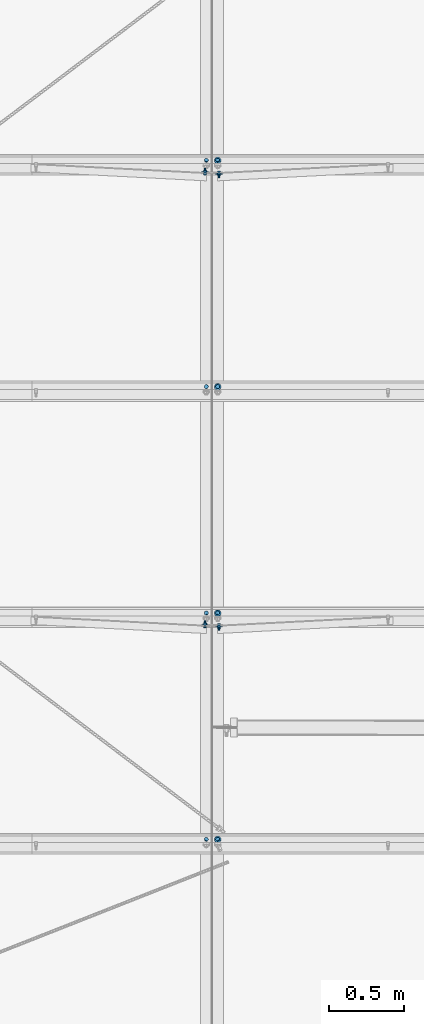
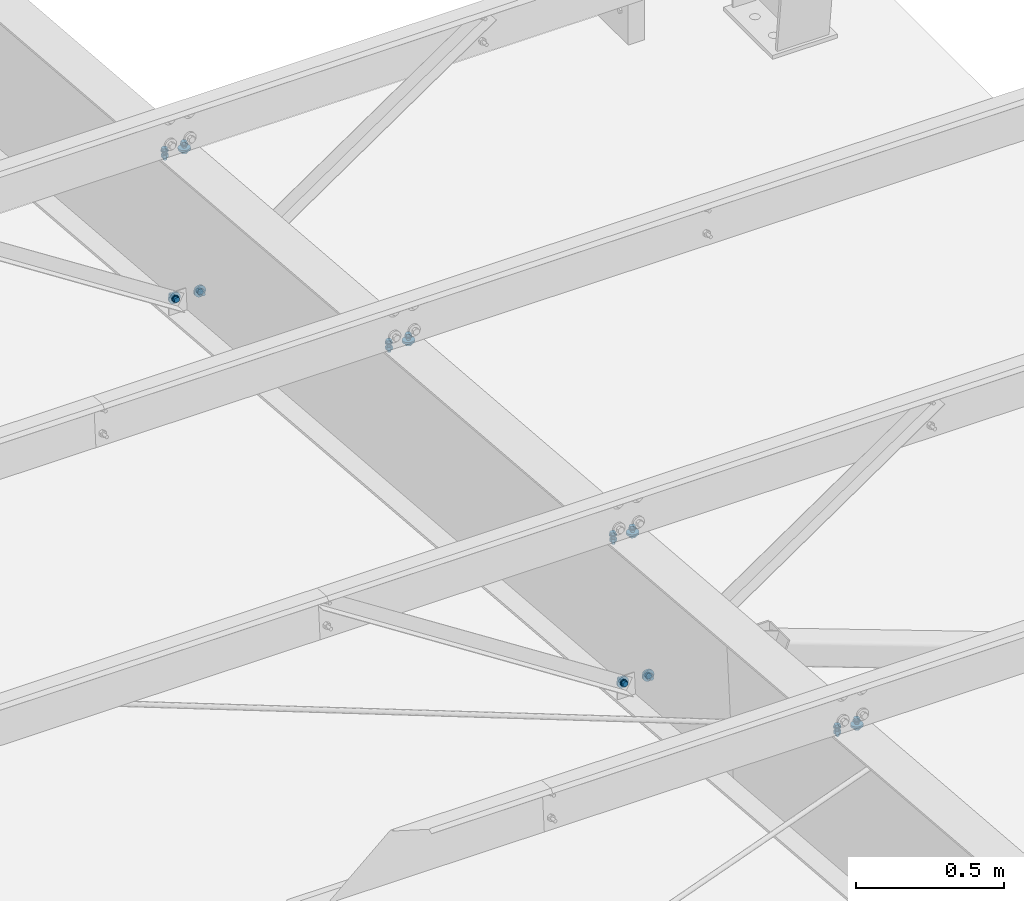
# One storey, part 174 of 185: 16 mechanical fasteners, 9 elements without a shape of their own.
"""IFC2X3 building model written with IfcOpenShell, lengths in millimetres."""

from ifc_helpers import new_model, si_unit, frame, origin_with_axes, origin_2d_with_axis, place, context, subcontext, project, spatial, polyline, circle, outline, extrude, source, transform, mapped, material, type_object, element, aggregate, save


model = new_model("IFC2X3")

# Units and contexts
model_context = context("Model", 3, precision=1e-05, world=origin_with_axes())
body_context = subcontext(model_context, "Body", "Model", "MODEL_VIEW")
ifc_project = project(units=[si_unit("LENGTHUNIT", "METRE", prefix="MILLI"), si_unit("AREAUNIT", "SQUARE_METRE"), si_unit("VOLUMEUNIT", "CUBIC_METRE"), si_unit("MASSUNIT", "GRAM", prefix="KILO"), si_unit("TIMEUNIT", "SECOND"), si_unit("PLANEANGLEUNIT", "RADIAN"), si_unit("SOLIDANGLEUNIT", "STERADIAN"), si_unit("THERMODYNAMICTEMPERATUREUNIT", "DEGREE_CELSIUS"), si_unit("LUMINOUSINTENSITYUNIT", "LUMEN")], contexts=[model_context])

# Site, building, storey
site_placement = place(None, origin_with_axes())
site = spatial("IfcSite", under=ifc_project, at=site_placement, Name="Undefined", CompositionType="ELEMENT")
building_placement = place(site_placement, origin_with_axes())
building = spatial("IfcBuilding", under=site, at=building_placement, Name="Undefined", CompositionType="ELEMENT")
storey_placement = place(building_placement, origin_with_axes())
storey = spatial("IfcBuildingStorey", under=building, at=storey_placement, Name="Undefined", CompositionType="ELEMENT", Elevation=0.0)

# Assembly, mechanical fastener
assembly_1_placement = place(storey_placement, origin_with_axes())
assembly_1 = element("IfcElementAssembly", 1, at=assembly_1_placement, inside=storey, Name="Steel Assembly", AssemblyPlace="NOTDEFINED", PredefinedType="RIGID_FRAME")
ifc_material_1 = material(Name="Undefined")
discrete_accessory_type = type_object("IfcDiscreteAccessoryType", Name="Bolt assembly")
shared_shape_1 = source(origin_with_axes(), body_context, "Body", "SweptSolid", [
    extrude(circle(Radius=7.14374971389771, at=origin_2d_with_axis()), frame((0.0, -1.59000001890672, 0.0), z_axis=(0.0, 1.0, 0.0), x_axis=(1.0, 0.0, 0.0)), (0.0, 0.0, 1.0), 1.7),
    extrude(outline(polyline([(10.9985221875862, 0.0), (5.4992610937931, 9.52499961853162), (-5.4992610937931, 9.52499961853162), (-10.9985221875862, 0.0), (-5.4992610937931, -9.52499961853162), (5.4992610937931, -9.52499961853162), (10.9985221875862, 0.0)])), frame((0.0, -15.0837496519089, 0.0), z_axis=(0.0, 1.0, 0.0), x_axis=(1.0, 0.0, 0.0)), (0.0, 0.0, 1.0), 9.5),
    extrude(circle(Radius=6.34999990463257, at=origin_2d_with_axis()), frame((0.0, -5.5587500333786, 0.0), z_axis=(0.0, 1.0, 0.0), x_axis=(1.0, 0.0, 0.0)), (0.0, 0.0, 1.0), 38.1),
    extrude(circle(Radius=13.4937496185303, at=origin_2d_with_axis()), frame((0.0, -5.5587500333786, 0.0), z_axis=(0.0, 1.0, 0.0), x_axis=(1.0, 0.0, 0.0)), (0.0, 0.0, 1.0), 4.0),
    extrude(circle(Radius=22.2250003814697, at=origin_2d_with_axis()), frame((0.0, 0.0, 0.0), z_axis=(0.0, 1.0, 0.0), x_axis=(1.0, 0.0, 0.0)), (0.0, 0.0, 1.0), 7.9),
    extrude(outline(polyline([(12.8316099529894, 0.0), (6.4158049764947, 11.1125001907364), (-6.4158049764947, 11.1125001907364), (-12.8316099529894, 0.0), (-6.4158049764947, -11.1125001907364), (6.4158049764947, -11.1125001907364), (12.8316099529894, 0.0)])), frame((0.0, 7.93750000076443, 0.0), z_axis=(0.0, 1.0, 0.0), x_axis=(1.0, 0.0, 0.0)), (0.0, 0.0, 1.0), 12.3),
])
mechanical_fastener_1_placement = place(assembly_1_placement, frame((37671.9939479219, 23836.3195518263, 6014.11103485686), z_axis=(-0.530152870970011, -0.0704144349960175, -0.844973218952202), x_axis=(-0.847902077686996, 0.0440267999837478, 0.52832159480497)))
mechanical_fastener_1 = element("IfcMechanicalFastener", 2, at=mechanical_fastener_1_placement, type_object=discrete_accessory_type, material=ifc_material_1, Name="Bolt assembly", NominalDiameter=12.6999998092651, NominalLength=38.0999984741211, context=body_context, shape_type="MappedRepresentation", body=[
    mapped(shared_shape_1, transform((0.0, 0.0, 0.0))),
])
aggregate(assembly_1, [mechanical_fastener_1])

assembly_2_placement = place(storey_placement, origin_with_axes())
assembly_2 = element("IfcElementAssembly", 3, at=assembly_2_placement, inside=storey, Name="Steel Assembly", AssemblyPlace="NOTDEFINED", PredefinedType="RIGID_FRAME")
mechanical_fastener_2_placement = place(assembly_2_placement, frame((37671.993947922, 20798.8480807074, 6267.23365747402), z_axis=(-0.530152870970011, -0.0704144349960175, -0.844973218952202), x_axis=(-0.847902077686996, 0.0440267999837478, 0.52832159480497)))
mechanical_fastener_2 = element("IfcMechanicalFastener", 4, at=mechanical_fastener_2_placement, type_object=discrete_accessory_type, material=ifc_material_1, Name="Bolt assembly", NominalDiameter=12.6999998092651, NominalLength=38.0999984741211, context=body_context, shape_type="MappedRepresentation", body=[
    mapped(shared_shape_1, transform((0.0, 0.0, 0.0))),
])
aggregate(assembly_2, [mechanical_fastener_2])

assembly_3_placement = place(storey_placement, origin_with_axes())
assembly_3 = element("IfcElementAssembly", 5, at=assembly_3_placement, inside=storey, Name="Steel Assembly", AssemblyPlace="NOTDEFINED", PredefinedType="RIGID_FRAME")
shared_shape_2 = source(origin_with_axes(), body_context, "Body", "SweptSolid", [
    extrude(circle(Radius=7.14374971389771, at=origin_2d_with_axis()), frame((0.0, 0.0, 0.0), z_axis=(0.0, 1.0, 0.0), x_axis=(1.0, 0.0, 0.0)), (0.0, 0.0, 1.0), 1.7),
    extrude(outline(polyline([(10.9985221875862, 0.0), (5.4992610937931, 9.52499961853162), (-5.4992610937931, 9.52499961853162), (-10.9985221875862, 0.0), (-5.4992610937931, -9.52499961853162), (5.4992610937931, -9.52499961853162), (10.9985221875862, 0.0)])), frame((0.0, -13.4937496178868, 0.0), z_axis=(0.0, 1.0, 0.0), x_axis=(1.0, 0.0, 0.0)), (0.0, 0.0, 1.0), 9.5),
    extrude(circle(Radius=6.34999990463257, at=origin_2d_with_axis()), frame((0.0, -3.96874999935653, 0.0), z_axis=(0.0, 1.0, 0.0), x_axis=(1.0, 0.0, 0.0)), (0.0, 0.0, 1.0), 38.1),
    extrude(circle(Radius=13.4937496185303, at=origin_2d_with_axis()), frame((0.0, -3.96874999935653, 0.0), z_axis=(0.0, 1.0, 0.0), x_axis=(1.0, 0.0, 0.0)), (0.0, 0.0, 1.0), 4.0),
    extrude(circle(Radius=22.2250003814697, at=origin_2d_with_axis()), frame((0.0, 1.5900000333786, 0.0), z_axis=(0.0, 1.0, 0.0), x_axis=(1.0, 0.0, 0.0)), (0.0, 0.0, 1.0), 7.9),
    extrude(outline(polyline([(12.8316099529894, 0.0), (6.4158049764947, 11.1125001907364), (-6.4158049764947, 11.1125001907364), (-12.8316099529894, 0.0), (-6.4158049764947, -11.1125001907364), (6.4158049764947, -11.1125001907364), (12.8316099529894, 0.0)])), frame((0.0, 9.5275000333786, 0.0), z_axis=(0.0, 1.0, 0.0), x_axis=(1.0, 0.0, 0.0)), (0.0, 0.0, 1.0), 12.3),
])
mechanical_fastener_3_placement = place(assembly_3_placement, frame((37766.0060520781, 23836.3195518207, 6014.11103485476), z_axis=(0.530152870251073, -0.0704144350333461, -0.844973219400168), x_axis=(0.847902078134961, 0.0440268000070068, 0.528321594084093)))
mechanical_fastener_3 = element("IfcMechanicalFastener", 6, at=mechanical_fastener_3_placement, type_object=discrete_accessory_type, material=ifc_material_1, Name="Bolt assembly", NominalDiameter=12.6999998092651, NominalLength=38.0999984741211, context=body_context, shape_type="MappedRepresentation", body=[
    mapped(shared_shape_2, transform((0.0, 0.0, 0.0))),
])
aggregate(assembly_3, [mechanical_fastener_3])

assembly_4_placement = place(storey_placement, origin_with_axes())
assembly_4 = element("IfcElementAssembly", 7, at=assembly_4_placement, inside=storey, Name="Steel Assembly", AssemblyPlace="NOTDEFINED", PredefinedType="RIGID_FRAME")
mechanical_fastener_4_placement = place(assembly_4_placement, frame((37766.006052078, 20798.8480806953, 6267.23365746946), z_axis=(0.530152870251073, -0.0704144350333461, -0.844973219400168), x_axis=(0.847902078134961, 0.0440268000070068, 0.528321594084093)))
mechanical_fastener_4 = element("IfcMechanicalFastener", 8, at=mechanical_fastener_4_placement, type_object=discrete_accessory_type, material=ifc_material_1, Name="Bolt assembly", NominalDiameter=12.6999998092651, NominalLength=38.0999984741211, context=body_context, shape_type="MappedRepresentation", body=[
    mapped(shared_shape_2, transform((0.0, 0.0, 0.0))),
])
aggregate(assembly_4, [mechanical_fastener_4])

# Assembly, mechanical fasteners
assembly_5_placement = place(storey_placement, origin_with_axes())
assembly_5 = element("IfcElementAssembly", 9, at=assembly_5_placement, inside=storey, Name="Steel Assembly", AssemblyPlace="NOTDEFINED", PredefinedType="RIGID_FRAME")
ifc_material_2 = material(Name="7990")
shared_shape_3 = source(origin_with_axes(), body_context, "Body", "SweptSolid", [
    extrude(circle(Radius=7.14374971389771, at=origin_2d_with_axis()), frame((0.0, -3.41600000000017, 0.0), z_axis=(0.0, 1.0, 0.0), x_axis=(1.0, 0.0, 0.0)), (0.0, 0.0, 1.0), 3.5),
    extrude(circle(Radius=11.4299998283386, at=origin_2d_with_axis()), frame((0.0, 0.0, 0.0), z_axis=(0.0, 1.0, 0.0), x_axis=(1.0, 0.0, 0.0)), (0.0, 0.0, 1.0), 4.2),
    extrude(outline(polyline([(12.171698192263, 0.0), (6.08584909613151, 10.5409998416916), (-6.08584909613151, 10.5409998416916), (-12.171698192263, 0.0), (-6.08584909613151, -10.5409998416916), (6.08584909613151, -10.5409998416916), (12.171698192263, 0.0)])), frame((0.0, 4.1909999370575, 0.0), z_axis=(0.0, 1.0, 0.0), x_axis=(1.0, 0.0, 0.0)), (0.0, 0.0, 1.0), 8.4),
])
mechanical_fastener_5_placement = place(assembly_5_placement, frame((37765.15815, 23836.2755250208, 6013.58271325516), z_axis=(-0.921635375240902, -0.0322263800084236, -0.386716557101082), x_axis=(0.388056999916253, -0.0765376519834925, -0.918451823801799)))
mechanical_fastener_5 = element("IfcMechanicalFastener", 10, at=mechanical_fastener_5_placement, type_object=discrete_accessory_type, material=ifc_material_2, Name="Bolt assembly", NominalDiameter=12.6999998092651, NominalLength=38.0999984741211, context=body_context, shape_type="MappedRepresentation", body=[
    mapped(shared_shape_3, transform((0.0, 0.0, 0.0))),
])
mechanical_fastener_6_placement = place(assembly_5_placement, frame((37765.15815, 20798.8040538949, 6266.70533586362), z_axis=(-0.921635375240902, -0.0322263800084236, -0.386716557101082), x_axis=(0.388056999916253, -0.0765376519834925, -0.918451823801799)))
mechanical_fastener_6 = element("IfcMechanicalFastener", 11, at=mechanical_fastener_6_placement, type_object=discrete_accessory_type, material=ifc_material_2, Name="Bolt assembly", NominalDiameter=12.6999998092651, NominalLength=38.0999984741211, context=body_context, shape_type="MappedRepresentation", body=[
    mapped(shared_shape_3, transform((0.0, 0.0, 0.0))),
])
shared_shape_4 = source(origin_with_axes(), body_context, "Body", "SweptSolid", [
    extrude(circle(Radius=7.14374971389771, at=origin_2d_with_axis()), frame((0.0, 0.0, 0.0), z_axis=(0.0, 1.0, 0.0), x_axis=(1.0, 0.0, 0.0)), (0.0, 0.0, 1.0), 3.5),
    extrude(circle(Radius=11.4299998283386, at=origin_2d_with_axis()), frame((0.0, 3.41600000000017, 0.0), z_axis=(0.0, 1.0, 0.0), x_axis=(1.0, 0.0, 0.0)), (0.0, 0.0, 1.0), 4.2),
    extrude(outline(polyline([(12.171698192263, 0.0), (6.08584909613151, 10.5409998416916), (-6.08584909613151, 10.5409998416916), (-12.171698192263, 0.0), (-6.08584909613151, -10.5409998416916), (6.08584909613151, -10.5409998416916), (12.171698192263, 0.0)])), frame((0.0, 7.60699993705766, 0.0), z_axis=(0.0, 1.0, 0.0), x_axis=(1.0, 0.0, 0.0)), (0.0, 0.0, 1.0), 8.4),
])
mechanical_fastener_7_placement = place(assembly_5_placement, frame((37672.84185, 23836.2755250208, 6013.58271325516), z_axis=(0.921635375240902, -0.0322263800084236, -0.386716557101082), x_axis=(-0.388056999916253, -0.0765376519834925, -0.918451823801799)))
mechanical_fastener_7 = element("IfcMechanicalFastener", 12, at=mechanical_fastener_7_placement, type_object=discrete_accessory_type, material=ifc_material_2, Name="Bolt assembly", NominalDiameter=12.6999998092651, NominalLength=38.0999984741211, context=body_context, shape_type="MappedRepresentation", body=[
    mapped(shared_shape_4, transform((0.0, 0.0, 0.0))),
])
mechanical_fastener_8_placement = place(assembly_5_placement, frame((37672.84185, 20798.8040538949, 6266.70533586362), z_axis=(0.921635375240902, -0.0322263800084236, -0.386716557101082), x_axis=(-0.388056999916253, -0.0765376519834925, -0.918451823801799)))
mechanical_fastener_8 = element("IfcMechanicalFastener", 13, at=mechanical_fastener_8_placement, type_object=discrete_accessory_type, material=ifc_material_2, Name="Bolt assembly", NominalDiameter=12.6999998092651, NominalLength=38.0999984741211, context=body_context, shape_type="MappedRepresentation", body=[
    mapped(shared_shape_4, transform((0.0, 0.0, 0.0))),
])
aggregate(assembly_5, [mechanical_fastener_7, mechanical_fastener_5, mechanical_fastener_8, mechanical_fastener_6])

assembly_6_placement = place(storey_placement, origin_with_axes())
assembly_6 = element("IfcElementAssembly", 14, at=assembly_6_placement, inside=storey, Name="Steel Assembly", AssemblyPlace="NOTDEFINED", PredefinedType="RIGID_FRAME")
shared_shape_5 = source(origin_with_axes(), body_context, "Body", "SweptSolid", [
    extrude(circle(Radius=7.14374971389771, at=origin_2d_with_axis()), frame((0.0, -0.0238014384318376, 0.0), z_axis=(0.0, 1.0, 0.0), x_axis=(1.0, 0.0, 0.0)), (0.0, 0.0, 1.0), 8.0),
    extrude(circle(Radius=7.14374971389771, at=origin_2d_with_axis()), frame((0.0, -3.18000030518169, 0.0), z_axis=(0.0, 1.0, 0.0), x_axis=(1.0, 0.0, 0.0)), (0.0, 0.0, 1.0), 3.2),
    extrude(circle(Radius=7.14374971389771, at=origin_2d_with_axis()), frame((0.0, -3.08000006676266, 0.0), z_axis=(0.0, 1.0, 0.0), x_axis=(1.0, 0.0, 0.0)), (0.0, 0.0, 1.0), 3.2),
    extrude(outline(polyline([(10.9985221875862, 0.0), (5.4992610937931, 9.52499961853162), (-5.4992610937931, 9.52499961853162), (-10.9985221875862, 0.0), (-5.4992610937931, -9.52499961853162), (5.4992610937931, -9.52499961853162), (10.9985221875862, 0.0)])), frame((0.0, -16.6737496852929, 0.0), z_axis=(0.0, 1.0, 0.0), x_axis=(1.0, 0.0, 0.0)), (0.0, 0.0, 1.0), 9.5),
    extrude(circle(Radius=6.34999990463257, at=origin_2d_with_axis()), frame((0.0, -7.14875006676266, 0.0), z_axis=(0.0, 1.0, 0.0), x_axis=(1.0, 0.0, 0.0)), (0.0, 0.0, 1.0), 38.1),
    extrude(circle(Radius=13.4937496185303, at=origin_2d_with_axis()), frame((0.0, -7.14875006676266, 0.0), z_axis=(0.0, 1.0, 0.0), x_axis=(1.0, 0.0, 0.0)), (0.0, 0.0, 1.0), 4.0),
    extrude(circle(Radius=22.2250003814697, at=origin_2d_with_axis()), frame((0.0, 7.95019856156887, 0.0), z_axis=(0.0, 1.0, 0.0), x_axis=(1.0, 0.0, 0.0)), (0.0, 0.0, 1.0), 7.9),
    extrude(outline(polyline([(12.8316099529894, 0.0), (6.4158049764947, 11.1125001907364), (-6.4158049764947, 11.1125001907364), (-12.8316099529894, 0.0), (-6.4158049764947, -11.1125001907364), (6.4158049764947, -11.1125001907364), (12.8316099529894, 0.0)])), frame((0.0, 15.8876985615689, 0.0), z_axis=(0.0, 1.0, 0.0), x_axis=(1.0, 0.0, 0.0)), (0.0, 0.0, 1.0), 12.3),
])
mechanical_fastener_9_placement = place(assembly_6_placement, frame((37757.1, 23920.5189522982, 6565.71908714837), z_axis=(-1.0, 0.0, 0.0), x_axis=(0.0, 0.996545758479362, -0.0830454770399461)))
mechanical_fastener_9 = element("IfcMechanicalFastener", 15, at=mechanical_fastener_9_placement, type_object=discrete_accessory_type, material=ifc_material_1, Name="Bolt assembly", NominalDiameter=12.6999998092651, NominalLength=38.0999984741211, context=body_context, shape_type="MappedRepresentation", body=[
    mapped(shared_shape_5, transform((0.0, 0.0, 0.0))),
])
shared_shape_6 = source(origin_with_axes(), body_context, "Body", "SweptSolid", [
    extrude(circle(Radius=7.14374971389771, at=origin_2d_with_axis()), frame((0.0, -0.0238014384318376, 0.0), z_axis=(0.0, 1.0, 0.0), x_axis=(1.0, 0.0, 0.0)), (0.0, 0.0, 1.0), 8.0),
    extrude(circle(Radius=7.14374971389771, at=origin_2d_with_axis()), frame((0.0, -3.18000030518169, 0.0), z_axis=(0.0, 1.0, 0.0), x_axis=(1.0, 0.0, 0.0)), (0.0, 0.0, 1.0), 3.2),
    extrude(circle(Radius=7.14374971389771, at=origin_2d_with_axis()), frame((0.0, -3.08000006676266, 0.0), z_axis=(0.0, 1.0, 0.0), x_axis=(1.0, 0.0, 0.0)), (0.0, 0.0, 1.0), 3.2),
    extrude(outline(polyline([(10.9985221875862, 0.0), (5.4992610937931, 9.52499961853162), (-5.4992610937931, 9.52499961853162), (-10.9985221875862, 0.0), (-5.4992610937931, -9.52499961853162), (5.4992610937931, -9.52499961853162), (10.9985221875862, 0.0)])), frame((0.0, -16.6737496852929, 0.0), z_axis=(0.0, 1.0, 0.0), x_axis=(1.0, 0.0, 0.0)), (0.0, 0.0, 1.0), 9.5),
    extrude(circle(Radius=6.34999990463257, at=origin_2d_with_axis()), frame((0.0, -7.14875006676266, 0.0), z_axis=(0.0, 1.0, 0.0), x_axis=(1.0, 0.0, 0.0)), (0.0, 0.0, 1.0), 38.1),
    extrude(circle(Radius=13.4937496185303, at=origin_2d_with_axis()), frame((0.0, -7.14875006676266, 0.0), z_axis=(0.0, 1.0, 0.0), x_axis=(1.0, 0.0, 0.0)), (0.0, 0.0, 1.0), 4.0),
    extrude(outline(polyline([(12.8316099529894, 0.0), (6.4158049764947, 11.1125001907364), (-6.4158049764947, 11.1125001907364), (-12.8316099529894, 0.0), (-6.4158049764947, -11.1125001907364), (6.4158049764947, -11.1125001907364), (12.8316099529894, 0.0)])), frame((0.0, 7.95019856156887, 0.0), z_axis=(0.0, 1.0, 0.0), x_axis=(1.0, 0.0, 0.0)), (0.0, 0.0, 1.0), 12.3),
])
mechanical_fastener_10_placement = place(assembly_6_placement, frame((37680.9, 23920.5189522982, 6565.71908714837), z_axis=(-1.0, 0.0, 0.0), x_axis=(0.0, 0.996545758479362, -0.0830454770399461)))
mechanical_fastener_10 = element("IfcMechanicalFastener", 16, at=mechanical_fastener_10_placement, type_object=discrete_accessory_type, material=ifc_material_1, Name="Bolt assembly", NominalDiameter=12.6999998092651, NominalLength=38.0999984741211, context=body_context, shape_type="MappedRepresentation", body=[
    mapped(shared_shape_6, transform((0.0, 0.0, 0.0))),
])
aggregate(assembly_6, [mechanical_fastener_9, mechanical_fastener_10])

# Assembly, mechanical fastener
assembly_7_placement = place(storey_placement, origin_with_axes())
assembly_7 = element("IfcElementAssembly", 17, at=assembly_7_placement, inside=storey, Name="Steel Assembly", AssemblyPlace="NOTDEFINED", PredefinedType="RIGID_FRAME")
shared_shape_7 = source(origin_with_axes(), body_context, "Body", "SweptSolid", [
    extrude(circle(Radius=7.14374971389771, at=origin_2d_with_axis()), frame((0.0, -0.0238014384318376, 0.0), z_axis=(0.0, 1.0, 0.0), x_axis=(1.0, 0.0, 0.0)), (0.0, 0.0, 1.0), 8.0),
    extrude(circle(Radius=7.14374971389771, at=origin_2d_with_axis()), frame((0.0, -3.08000006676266, 0.0), z_axis=(0.0, 1.0, 0.0), x_axis=(1.0, 0.0, 0.0)), (0.0, 0.0, 1.0), 3.2),
    extrude(circle(Radius=7.14374971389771, at=origin_2d_with_axis()), frame((0.0, -3.08000006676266, 0.0), z_axis=(0.0, 1.0, 0.0), x_axis=(1.0, 0.0, 0.0)), (0.0, 0.0, 1.0), 3.2),
    extrude(outline(polyline([(10.9985221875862, 0.0), (5.4992610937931, 9.52499961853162), (-5.4992610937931, 9.52499961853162), (-10.9985221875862, 0.0), (-5.4992610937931, -9.52499961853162), (5.4992610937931, -9.52499961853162), (10.9985221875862, 0.0)])), frame((0.0, -16.6737496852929, 0.0), z_axis=(0.0, 1.0, 0.0), x_axis=(1.0, 0.0, 0.0)), (0.0, 0.0, 1.0), 9.5),
    extrude(circle(Radius=6.34999990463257, at=origin_2d_with_axis()), frame((0.0, -7.14875006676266, 0.0), z_axis=(0.0, 1.0, 0.0), x_axis=(1.0, 0.0, 0.0)), (0.0, 0.0, 1.0), 38.1),
    extrude(circle(Radius=13.4937496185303, at=origin_2d_with_axis()), frame((0.0, -7.14875006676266, 0.0), z_axis=(0.0, 1.0, 0.0), x_axis=(1.0, 0.0, 0.0)), (0.0, 0.0, 1.0), 4.0),
    extrude(circle(Radius=22.2250003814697, at=origin_2d_with_axis()), frame((0.0, 7.95019856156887, 0.0), z_axis=(0.0, 1.0, 0.0), x_axis=(1.0, 0.0, 0.0)), (0.0, 0.0, 1.0), 7.9),
    extrude(outline(polyline([(12.8316099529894, 0.0), (6.4158049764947, 11.1125001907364), (-6.4158049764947, 11.1125001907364), (-12.8316099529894, 0.0), (-6.4158049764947, -11.1125001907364), (6.4158049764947, -11.1125001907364), (12.8316099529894, 0.0)])), frame((0.0, 15.8876985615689, 0.0), z_axis=(0.0, 1.0, 0.0), x_axis=(1.0, 0.0, 0.0)), (0.0, 0.0, 1.0), 12.3),
])
mechanical_fastener_11_placement = place(assembly_7_placement, frame((37757.1, 19364.3117456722, 6945.40302181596), z_axis=(-1.0, 0.0, 0.0), x_axis=(0.0, 0.996545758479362, -0.0830454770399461)))
mechanical_fastener_11 = element("IfcMechanicalFastener", 18, at=mechanical_fastener_11_placement, type_object=discrete_accessory_type, material=ifc_material_1, Name="Bolt assembly", NominalDiameter=12.6999998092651, NominalLength=38.0999984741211, context=body_context, shape_type="MappedRepresentation", body=[
    mapped(shared_shape_7, transform((0.0, 0.0, 0.0))),
])

assembly_8_placement = place(storey_placement, origin_with_axes())
assembly_8 = element("IfcElementAssembly", 19, at=assembly_8_placement, inside=storey, Name="Steel Assembly", AssemblyPlace="NOTDEFINED", PredefinedType="RIGID_FRAME")
mechanical_fastener_12_placement = place(assembly_8_placement, frame((37757.1, 20883.0474812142, 6818.84171026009), z_axis=(-1.0, 0.0, 0.0), x_axis=(0.0, 0.996545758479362, -0.0830454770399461)))
mechanical_fastener_12 = element("IfcMechanicalFastener", 20, at=mechanical_fastener_12_placement, type_object=discrete_accessory_type, material=ifc_material_1, Name="Bolt assembly", NominalDiameter=12.6999998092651, NominalLength=38.0999984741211, context=body_context, shape_type="MappedRepresentation", body=[
    mapped(shared_shape_7, transform((0.0, 0.0, 0.0))),
])

assembly_9_placement = place(storey_placement, origin_with_axes())
assembly_9 = element("IfcElementAssembly", 21, at=assembly_9_placement, inside=storey, Name="Steel Assembly", AssemblyPlace="NOTDEFINED", PredefinedType="RIGID_FRAME")
mechanical_fastener_13_placement = place(assembly_9_placement, frame((37757.1, 22401.7832167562, 6692.28039870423), z_axis=(-1.0, 0.0, 0.0), x_axis=(0.0, 0.996545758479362, -0.0830454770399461)))
mechanical_fastener_13 = element("IfcMechanicalFastener", 22, at=mechanical_fastener_13_placement, type_object=discrete_accessory_type, material=ifc_material_1, Name="Bolt assembly", NominalDiameter=12.6999998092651, NominalLength=38.0999984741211, context=body_context, shape_type="MappedRepresentation", body=[
    mapped(shared_shape_7, transform((0.0, 0.0, 0.0))),
])

# Mechanical fastener
shared_shape_8 = source(origin_with_axes(), body_context, "Body", "SweptSolid", [
    extrude(circle(Radius=7.14374971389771, at=origin_2d_with_axis()), frame((0.0, -0.0238014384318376, 0.0), z_axis=(0.0, 1.0, 0.0), x_axis=(1.0, 0.0, 0.0)), (0.0, 0.0, 1.0), 8.0),
    extrude(circle(Radius=7.14374971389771, at=origin_2d_with_axis()), frame((0.0, -3.08000006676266, 0.0), z_axis=(0.0, 1.0, 0.0), x_axis=(1.0, 0.0, 0.0)), (0.0, 0.0, 1.0), 3.2),
    extrude(circle(Radius=7.14374971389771, at=origin_2d_with_axis()), frame((0.0, -3.08000006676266, 0.0), z_axis=(0.0, 1.0, 0.0), x_axis=(1.0, 0.0, 0.0)), (0.0, 0.0, 1.0), 3.2),
    extrude(outline(polyline([(10.9985221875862, 0.0), (5.4992610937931, 9.52499961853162), (-5.4992610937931, 9.52499961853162), (-10.9985221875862, 0.0), (-5.4992610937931, -9.52499961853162), (5.4992610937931, -9.52499961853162), (10.9985221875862, 0.0)])), frame((0.0, -16.6737496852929, 0.0), z_axis=(0.0, 1.0, 0.0), x_axis=(1.0, 0.0, 0.0)), (0.0, 0.0, 1.0), 9.5),
    extrude(circle(Radius=6.34999990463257, at=origin_2d_with_axis()), frame((0.0, -7.14875006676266, 0.0), z_axis=(0.0, 1.0, 0.0), x_axis=(1.0, 0.0, 0.0)), (0.0, 0.0, 1.0), 38.1),
    extrude(circle(Radius=13.4937496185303, at=origin_2d_with_axis()), frame((0.0, -7.14875006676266, 0.0), z_axis=(0.0, 1.0, 0.0), x_axis=(1.0, 0.0, 0.0)), (0.0, 0.0, 1.0), 4.0),
    extrude(outline(polyline([(12.8316099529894, 0.0), (6.4158049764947, 11.1125001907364), (-6.4158049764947, 11.1125001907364), (-12.8316099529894, 0.0), (-6.4158049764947, -11.1125001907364), (6.4158049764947, -11.1125001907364), (12.8316099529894, 0.0)])), frame((0.0, 7.95019856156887, 0.0), z_axis=(0.0, 1.0, 0.0), x_axis=(1.0, 0.0, 0.0)), (0.0, 0.0, 1.0), 12.3),
])
mechanical_fastener_14_placement = place(assembly_7_placement, frame((37680.9, 19364.3117456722, 6945.40302181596), z_axis=(-1.0, 0.0, 0.0), x_axis=(0.0, 0.996545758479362, -0.0830454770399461)))
mechanical_fastener_14 = element("IfcMechanicalFastener", 23, at=mechanical_fastener_14_placement, type_object=discrete_accessory_type, material=ifc_material_1, Name="Bolt assembly", NominalDiameter=12.6999998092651, NominalLength=38.0999984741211, context=body_context, shape_type="MappedRepresentation", body=[
    mapped(shared_shape_8, transform((0.0, 0.0, 0.0))),
])

aggregate(assembly_7, [mechanical_fastener_11, mechanical_fastener_14])

mechanical_fastener_15_placement = place(assembly_8_placement, frame((37680.9, 20883.0474812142, 6818.84171026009), z_axis=(-1.0, 0.0, 0.0), x_axis=(0.0, 0.996545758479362, -0.0830454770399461)))
mechanical_fastener_15 = element("IfcMechanicalFastener", 24, at=mechanical_fastener_15_placement, type_object=discrete_accessory_type, material=ifc_material_1, Name="Bolt assembly", NominalDiameter=12.6999998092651, NominalLength=38.0999984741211, context=body_context, shape_type="MappedRepresentation", body=[
    mapped(shared_shape_8, transform((0.0, 0.0, 0.0))),
])

aggregate(assembly_8, [mechanical_fastener_12, mechanical_fastener_15])

mechanical_fastener_16_placement = place(assembly_9_placement, frame((37680.9, 22401.7832167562, 6692.28039870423), z_axis=(-1.0, 0.0, 0.0), x_axis=(0.0, 0.996545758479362, -0.0830454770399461)))
mechanical_fastener_16 = element("IfcMechanicalFastener", 25, at=mechanical_fastener_16_placement, type_object=discrete_accessory_type, material=ifc_material_1, Name="Bolt assembly", NominalDiameter=12.6999998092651, NominalLength=38.0999984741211, context=body_context, shape_type="MappedRepresentation", body=[
    mapped(shared_shape_8, transform((0.0, 0.0, 0.0))),
])

aggregate(assembly_9, [mechanical_fastener_13, mechanical_fastener_16])

save(model, "model.ifc")
